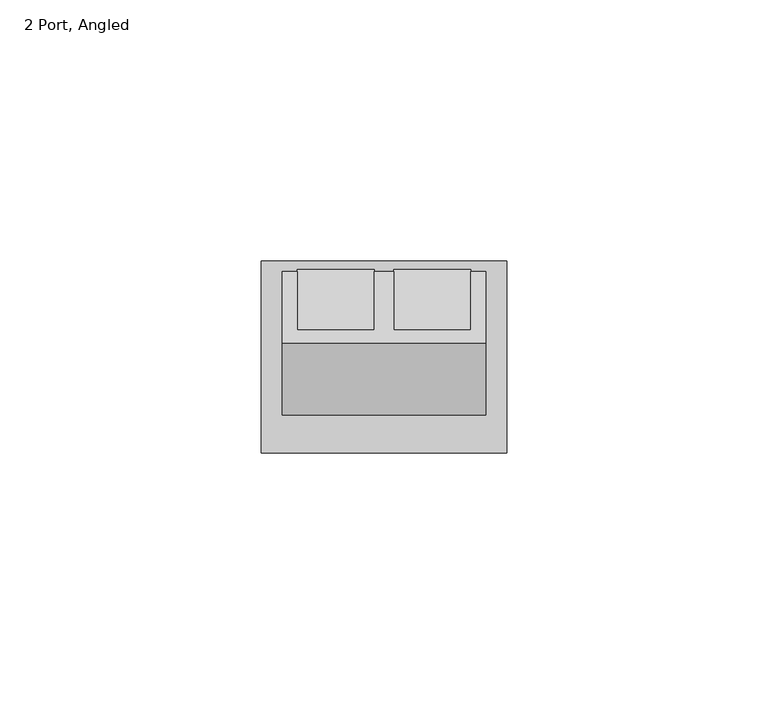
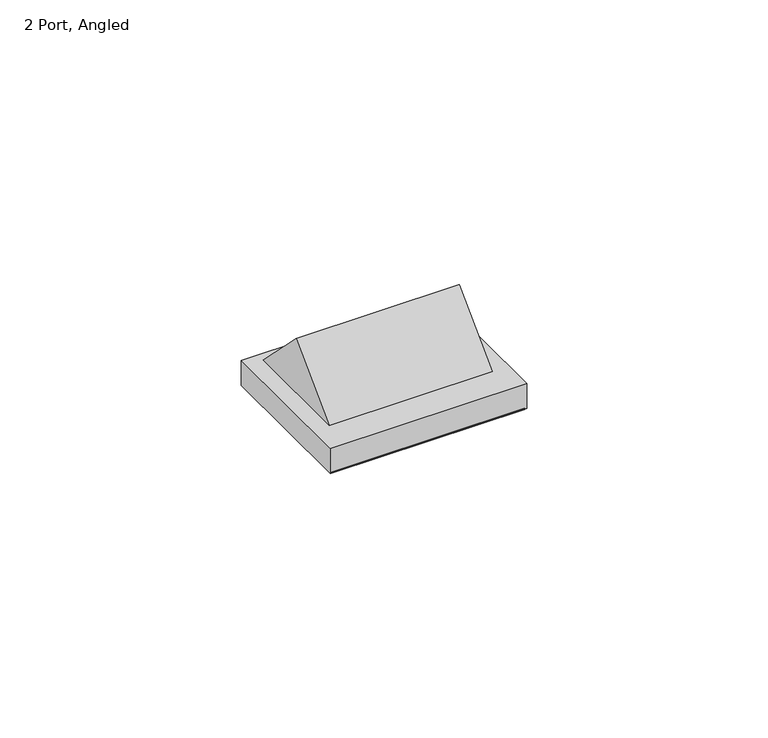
"""IFC4 building model written with IfcOpenShell, lengths in millimetres: electric appliance geometry, Data_Device-Work_Area-Leviton-MOS-Adapter-QuickPort : 2 Port, Angled."""

from ifc_helpers import new_model, si_unit, frame, origin, place, context, project, spatial, polyline, outline, extrude, faceted_brep, source, transform, mapped, element, save


def electric_appliance_2_port_angled_a2d9eddd(model_context):
    return source(origin(), model_context, "Body", "SolidModel", [
        extrude(outline(polyline([(0.2159, 20.1295), (0.2159, -16.0909), (-46.2661, -16.0909), (-46.2661, 20.1295), (0.2159, 20.1295)])), frame((0.0, 0.0, -6.35), z_axis=(0.0, 0.0, 1.0), x_axis=(1.0, 0.0, 0.0)), (0.0, 0.0, 1.0), 0.254),
        faceted_brep([(-24.8539, -4.0506396, 0.254), (-24.8539, 7.1504302, 11.4550698), (-24.8539, 18.3515, 0.254), (-39.5859, 7.1504302, 11.4550698), (-39.5859, -4.0506396, 0.254), (-39.5859, 18.3515, 0.254), (-6.4643, -4.0506396, 0.254), (-6.4643, 7.1504302, 11.4550698), (-6.4643, 18.3515, 0.254), (-21.1963, 7.1504302, 11.4550698), (-21.1963, -4.0506396, 0.254), (-21.1963, 18.3515, 0.254), (-3.5179, 4.6355, 13.97), (-3.5179, -9.0805, 0.254), (-3.5179, 18.3515, 0.254), (-42.5323, 4.6355, 13.97), (-42.5323, 18.3515, 0.254), (-42.5323, -9.0805, 0.254)], [[[0, 1, 2]], [[3, 4, 5]], [[1, 0, 4, 3]], [[6, 7, 8]], [[9, 10, 11]], [[7, 6, 10, 9]], [[12, 13, 14]], [[15, 16, 17]], [[13, 12, 15, 17]], [[14, 13, 17, 16, 5, 4, 0, 2, 11, 10, 6, 8]], [[12, 14, 8, 7, 9, 11, 2, 1, 3, 5, 16, 15]]]),
        extrude(outline(polyline([(16.0715661, 0.0), (16.0715661, -16.5100001), (1.3395661, -16.5100001), (1.3395661, 0.0), (16.0715661, 0.0)])), frame((-40.9254661, 7.1504302, -11.8935961), z_axis=(0.0, 0.7071067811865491, 0.7071067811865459), x_axis=(1.0, 0.0, 0.0)), (0.0, 0.0, 1.0), 16.51),
        extrude(outline(polyline([(34.4611661, 0.0), (34.4611661, -16.5100001), (19.7291661, -16.5100001), (19.7291661, 0.0), (34.4611661, 0.0)])), frame((-40.9254661, 7.1504302, -11.8935961), z_axis=(0.0, 0.7071067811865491, 0.7071067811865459), x_axis=(1.0, 0.0, 0.0)), (0.0, 0.0, 1.0), 16.51),
        faceted_brep([(0.4699, 20.3835, 0.254), (-46.5201, 20.3835, 0.254), (-46.5201, -16.3449, 0.254), (0.4699, -16.3449, 0.254), (-39.5859, 18.3515, 0.254), (-24.8539, 18.3515, 0.254), (-24.8539, -4.0506396, 0.254), (-39.5859, -4.0506396, 0.254), (-21.1963, 18.3515, 0.254), (-6.4643, 18.3515, 0.254), (-6.4643, -4.0506396, 0.254), (-21.1963, -4.0506396, 0.254), (0.4699, 20.3835, -6.096), (0.4699, -16.3449, -6.096), (-46.5201, -16.3449, -6.096), (-46.5201, 20.3835, -6.096), (-39.5859, 1.3528341, -6.096), (-24.8539, 1.3528341, -6.096), (-24.8539, 12.9480263, -6.096), (-39.5859, 12.9480263, -6.096), (-21.1963, 1.3528341, -6.096), (-6.4643, 1.3528341, -6.096), (-6.4643, 12.9480263, -6.096), (-21.1963, 12.9480263, -6.096), (-39.5859, 18.8247631, -0.2192631), (-24.8539, 18.8247631, -0.2192631), (-21.1963, 18.8247631, -0.2192631), (-6.4643, 18.8247631, -0.2192631), (-39.5859, -4.5239028, -0.2192631), (-24.8539, -4.5239028, -0.2192631), (-21.1963, -4.5239028, -0.2192631), (-6.4643, -4.5239028, -0.2192631)], [[[0, 1, 2, 3], [4, 5, 6, 7], [8, 9, 10, 11]], [[12, 13, 14, 15], [16, 17, 18, 19], [20, 21, 22, 23]], [[1, 0, 12, 15]], [[2, 1, 15, 14]], [[3, 2, 14, 13]], [[0, 3, 13, 12]], [[24, 25, 5, 4]], [[26, 27, 9, 8]], [[28, 29, 17, 16]], [[30, 31, 21, 20]], [[5, 25, 18, 17, 29, 6]], [[25, 24, 19, 18]], [[24, 4, 7, 28, 16, 19]], [[29, 28, 7, 6]], [[9, 27, 22, 21, 31, 10]], [[27, 26, 23, 22]], [[26, 8, 11, 30, 20, 23]], [[31, 30, 11, 10]]]),
    ])


if __name__ == "__main__":
    model = new_model("IFC4")
    model_context = context("Model", 3, world=origin())
    ifc_project = project(units=[si_unit("LENGTHUNIT", "METRE", prefix="MILLI")], contexts=[model_context])
    site = spatial("IfcSite", under=ifc_project)
    building = spatial("IfcBuilding", under=site)
    placement = place(None, origin())
    electric_appliance_2_port_angled_shape = electric_appliance_2_port_angled_a2d9eddd(model_context)
    element("IfcElectricAppliance", 1, ObjectType="Data_Device-Work_Area-Leviton-MOS-Adapter-QuickPort : 2 Port, Angled", at=placement, inside=building, context=model_context, shape_type="MappedRepresentation", body=[
        mapped(electric_appliance_2_port_angled_shape, transform((0.0, 0.0, 0.0), x_axis=(1.0, 0.0, 0.0), y_axis=(0.0, 1.0, 0.0), z_axis=(0.0, 0.0, 1.0))),
    ])
    save(model, "model.ifc")
